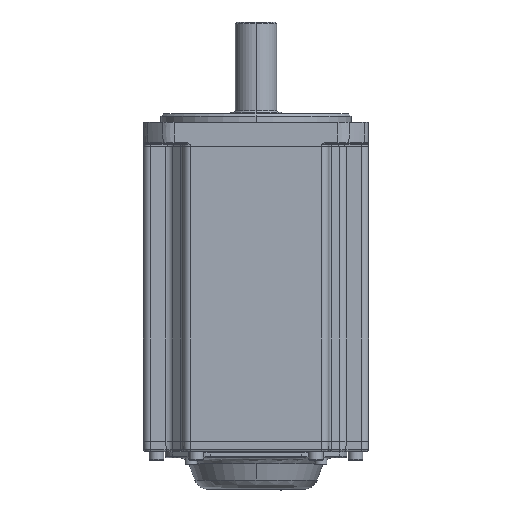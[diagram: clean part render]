
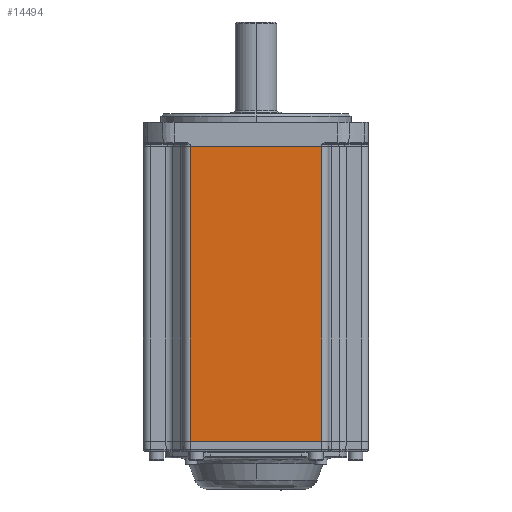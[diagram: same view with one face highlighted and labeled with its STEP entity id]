
A CAD part, front view. The second image highlights one B-rep face of the part: STEP entity #14494.
In plain terms, the highlighted planar face has unit normal (0, -1, 0).
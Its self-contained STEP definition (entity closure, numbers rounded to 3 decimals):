
#2940 = EDGE_CURVE ( 'NONE', #56126, #45505, #52799, .T. ) ;
#3873 = EDGE_CURVE ( 'NONE', #45505, #8089, #44511, .T. ) ;
#4622 = VECTOR ( 'NONE', #16656, 1000. ) ;
#6158 = VECTOR ( 'NONE', #23925, 1000. ) ;
#6453 = VERTEX_POINT ( 'NONE', #55562 ) ;
#6845 = AXIS2_PLACEMENT_3D ( 'NONE', #10972, #45055, #39610 ) ;
#8089 = VERTEX_POINT ( 'NONE', #57731 ) ;
#9416 = CARTESIAN_POINT ( 'NONE',  ( -38., -65., 877.8 ) ) ;
#10972 = CARTESIAN_POINT ( 'NONE',  ( -42., -65., 877.8 ) ) ;
#14494 = ADVANCED_FACE ( 'NONE', ( #44719 ), #54699, .F. ) ;
#15223 = EDGE_CURVE ( 'NONE', #8089, #6453, #49256, .T. ) ;
#16523 = VECTOR ( 'NONE', #57916, 1000. ) ;
#16656 = DIRECTION ( 'NONE',  ( 1., 0., 0. ) ) ;
#23155 = CARTESIAN_POINT ( 'NONE',  ( 38., -65., 877.8 ) ) ;
#23590 = DIRECTION ( 'NONE',  ( 0., 0., 1. ) ) ;
#23925 = DIRECTION ( 'NONE',  ( 0., 0., -1. ) ) ;
#24050 = ORIENTED_EDGE ( 'NONE', *, *, #2940, .T. ) ;
#24280 = CARTESIAN_POINT ( 'NONE',  ( -38., -65., -122.2 ) ) ;
#28923 = VECTOR ( 'NONE', #23590, 1000. ) ;
#32166 = EDGE_LOOP ( 'NONE', ( #42871, #24050, #36619, #56914 ) ) ;
#36619 = ORIENTED_EDGE ( 'NONE', *, *, #3873, .T. ) ;
#39610 = DIRECTION ( 'NONE',  ( 0., 0., 1. ) ) ;
#42871 = ORIENTED_EDGE ( 'NONE', *, *, #60336, .F. ) ;
#43830 = CARTESIAN_POINT ( 'NONE',  ( -42., -65., 47.8 ) ) ;
#44511 = LINE ( 'NONE', #59726, #4622 ) ;
#44719 = FACE_OUTER_BOUND ( 'NONE', #32166, .T. ) ;
#45055 = DIRECTION ( 'NONE',  ( 0., 1., 0. ) ) ;
#45505 = VERTEX_POINT ( 'NONE', #24280 ) ;
#46738 = CARTESIAN_POINT ( 'NONE',  ( -38., -65., 47.8 ) ) ;
#49256 = LINE ( 'NONE', #23155, #28923 ) ;
#52799 = LINE ( 'NONE', #9416, #6158 ) ;
#54699 = PLANE ( 'NONE',  #6845 ) ;
#55562 = CARTESIAN_POINT ( 'NONE',  ( 38., -65., 47.8 ) ) ;
#56126 = VERTEX_POINT ( 'NONE', #46738 ) ;
#56914 = ORIENTED_EDGE ( 'NONE', *, *, #15223, .T. ) ;
#57731 = CARTESIAN_POINT ( 'NONE',  ( 38., -65., -122.2 ) ) ;
#57916 = DIRECTION ( 'NONE',  ( 1., 0., 0. ) ) ;
#59392 = LINE ( 'NONE', #43830, #16523 ) ;
#59726 = CARTESIAN_POINT ( 'NONE',  ( -42., -65., -122.2 ) ) ;
#60336 = EDGE_CURVE ( 'NONE', #56126, #6453, #59392, .T. ) ;
